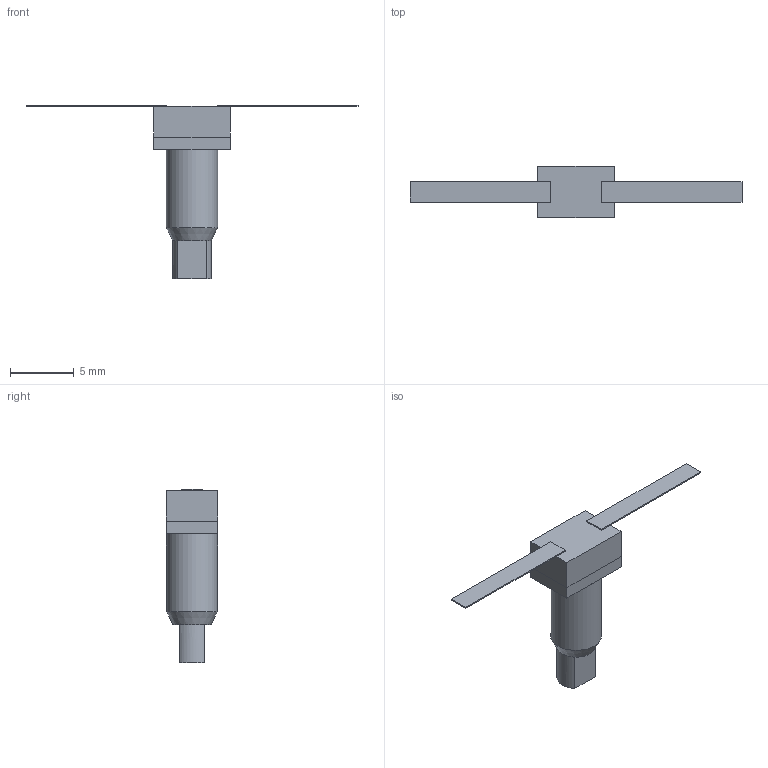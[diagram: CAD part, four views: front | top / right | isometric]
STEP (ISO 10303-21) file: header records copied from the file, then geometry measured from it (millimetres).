
FILE_DESCRIPTION(('STEP AP203'), '1');
FILE_NAME('R1-5-3', '', ('UNSPECIFIED'), ('UNSPECIFIED'), 'ASCON STEP Converter 1.6', 'ASCON Math Kernel', '');
FILE_SCHEMA(('CONFIG_CONTROL_DESIGN'));
Length unit declared in the file: millimetre
Bounding box: 26 x 4 x 13.6 mm (x, y, z)
Volume: 188 mm3; surface area: 343 mm2
Topology: 2 solids, 2 shells, 34 faces, 79 edges, 49 vertices
Faces by surface type: plane 30, cylinder 3, cone 1
Full cylindrical faces by diameter (mm): 4 x1
Entity records: 1258 total; most frequent: CARTESIAN_POINT 161, DIRECTION 158, ORIENTED_EDGE 154, EDGE_CURVE 77, LINE 66, VECTOR 66, VERTEX_POINT 49, AXIS2_PLACEMENT_3D 46
